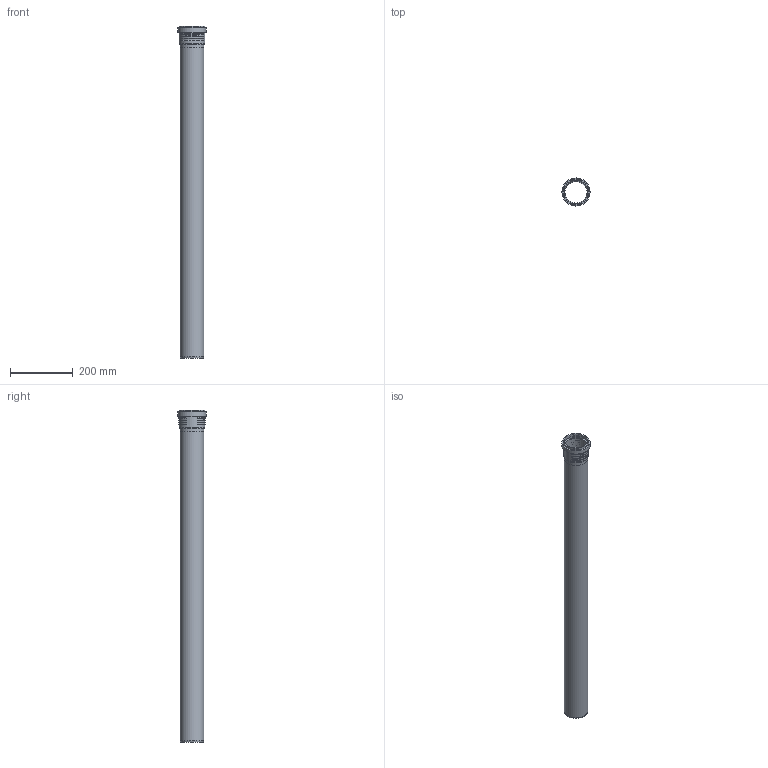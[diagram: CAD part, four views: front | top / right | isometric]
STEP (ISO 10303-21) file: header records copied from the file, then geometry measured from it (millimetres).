
FILE_DESCRIPTION(/* description */ (''),/* implementation_level */ '2;1');
FILE_NAME(/* name */ 'Z:\Geberit\Export\NewStep\390304.stp',/* time_stamp */ '2014-04-02T08:11:11+02:00',/* author */ ('ML'),/* organization */ (''),/* preprocessor_version */ 'ST-DEVELOPER v15.2',/* originating_system */ 'Autodesk Inventor 2014',/* authorisation */ '');
FILE_SCHEMA (('AUTOMOTIVE_DESIGN { 1 0 10303 214 3 1 1 }'));
Length unit declared in the file: millimetre
Products named in the file (3): 861427; 861583ohne; 390304
Bounding box: 89.4 x 89.4 x 1055.7 mm (x, y, z)
Volume: 642249.3 mm3; surface area: 497069.2 mm2
Topology: 2 solids, 2 shells, 47 faces, 104 edges, 71 vertices
Faces by surface type: torus 24, cylinder 11, plane 10, cone 2
Full cylindrical faces by diameter (mm): 70 x2, 75.2 x2, 76 x2, 78.6 x1, 81.2 x2, 84.2 x1, 89.4 x1
Entity records: 2003 total; most frequent: CARTESIAN_POINT 962, DIRECTION 182, ORIENTED_EDGE 174, AXIS2_PLACEMENT_3D 91, EDGE_CURVE 87, EDGE_LOOP 78, VERTEX_POINT 71, STYLED_ITEM 49
